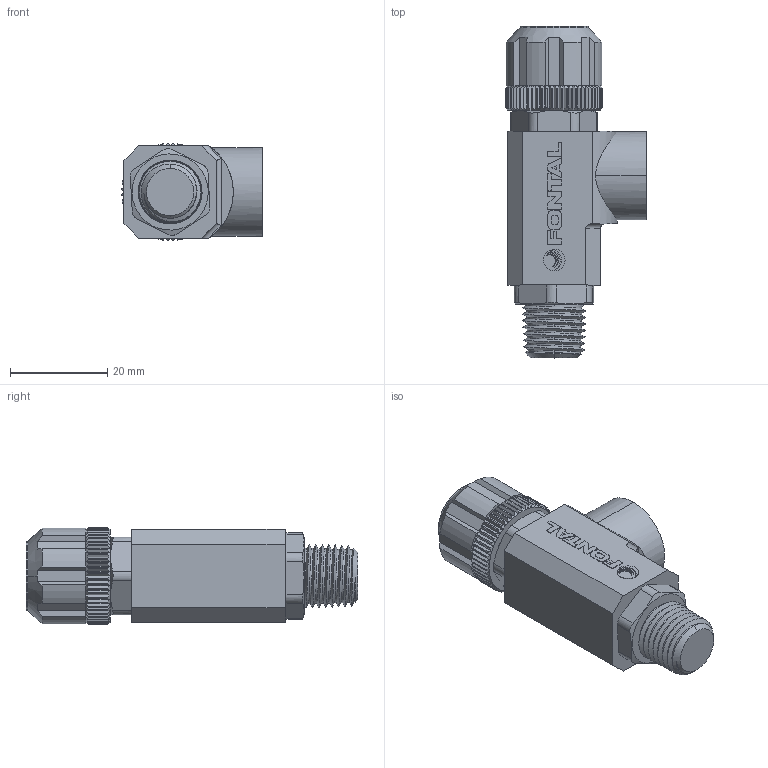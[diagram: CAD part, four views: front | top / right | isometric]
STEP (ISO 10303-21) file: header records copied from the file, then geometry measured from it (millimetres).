
FILE_DESCRIPTION (( 'STEP AP203' ), '1' );
FILE_NAME ('SPE-06-2.STEP', '2016-01-14T20:15:32', ( '' ), ( '' ), 'SwSTEP 2.0', 'SolidWorks 2014', '' );
FILE_SCHEMA (( 'CONFIG_CONTROL_DESIGN' ));
Length unit declared in the file: millimetre
Products named in the file (8): SPE-06-2; SPE-06-1-2; ZH-2H-MARK; SPE-06-3; SPE=1-4; SP-06-4; SP-06-6
Assembly tree (7 placements, depth 2):
  SPE-06-2
    SPE-06-2
    SP-06-4
    SP-06-6
    SPE-06-3
    ZH-2H-MARK
    SPE-06-1-2
    SPE=1-4
Bounding box: 28.99 x 68.3 x 19.98 mm (x, y, z)
Volume: 19484.3 mm3; surface area: 8738 mm2
Topology: 13 solids, 13 shells, 460 faces, 1168 edges, 734 vertices
Faces by surface type: plane 247, cylinder 111, cone 92, bspline 10
Entity records: 17583 total; most frequent: CARTESIAN_POINT 6196, ORIENTED_EDGE 2332, DIRECTION 2009, EDGE_CURVE 1166, AXIS2_PLACEMENT_3D 739, VERTEX_POINT 734, VECTOR 531, LINE 531
